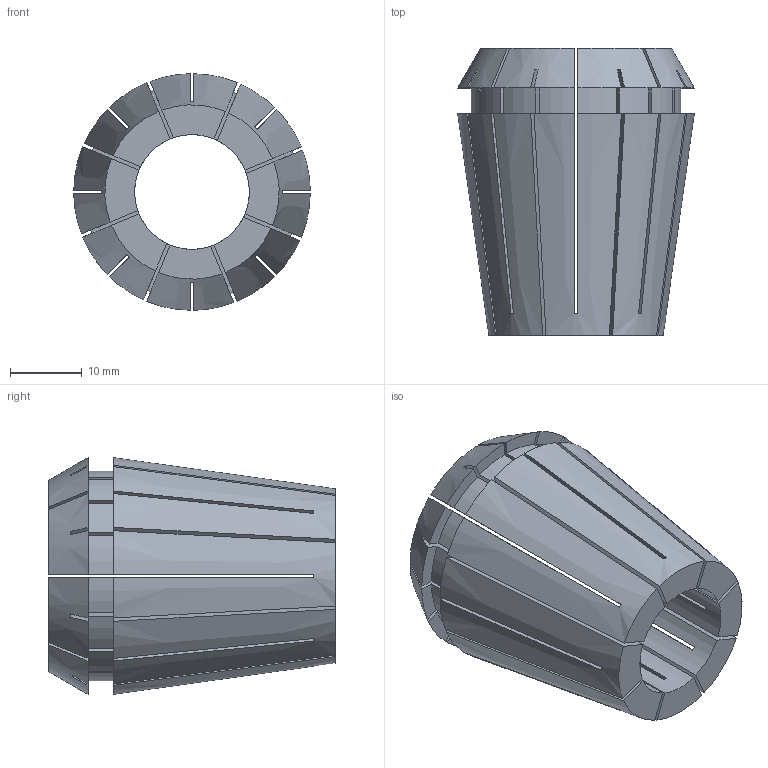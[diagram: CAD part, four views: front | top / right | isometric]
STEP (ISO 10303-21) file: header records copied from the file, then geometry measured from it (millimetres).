
FILE_DESCRIPTION(/* description */ ('STEP AP214'),/* implementation_level */ '2;1');
FILE_NAME(/* name */ '60949dc19ecec20f3f07b1a1',/* time_stamp */ '2021-05-07T01:54:10+00:00',/* author */ (''),/* organization */ (''),/* preprocessor_version */ 'ST-DEVELOPER v18.1',/* originating_system */ ' ',/* authorisation */ ' ');
FILE_SCHEMA (('AUTOMOTIVE_DESIGN {1 0 10303 214 3 1 1}'));
Length unit declared in the file: metre
Products named in the file (1): ER32 Collet - 15-16mm
Bounding box: 33 x 40 x 33 mm (x, y, z)
Volume: 16367.3 mm3; surface area: 13844.5 mm2
Topology: 1 solids, 1 shells, 129 faces, 386 edges, 257 vertices
Faces by surface type: plane 96, cylinder 17, cone 16
Full cylindrical faces by diameter (mm): 16 x1
Entity records: 4544 total; most frequent: CARTESIAN_POINT 986, ORIENTED_EDGE 768, DIRECTION 740, EDGE_CURVE 384, AXIS2_PLACEMENT_3D 266, VERTEX_POINT 256, LINE 208, VECTOR 208
